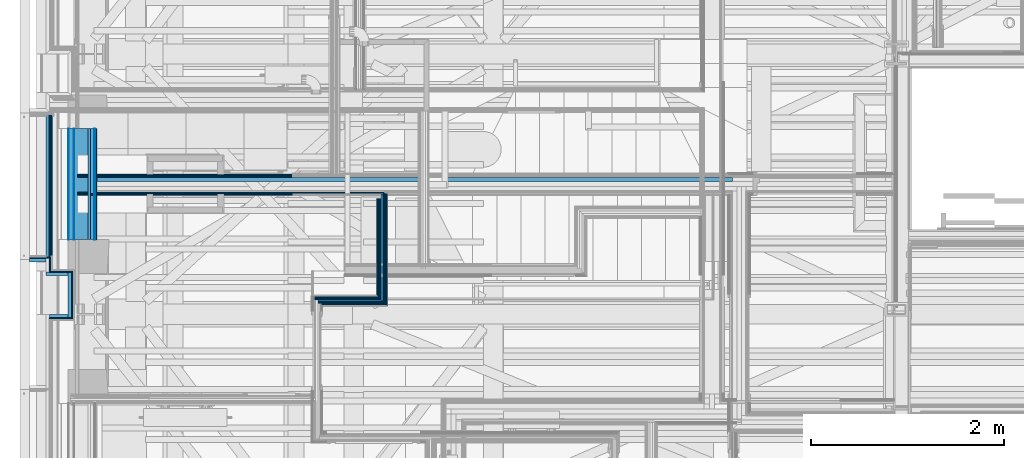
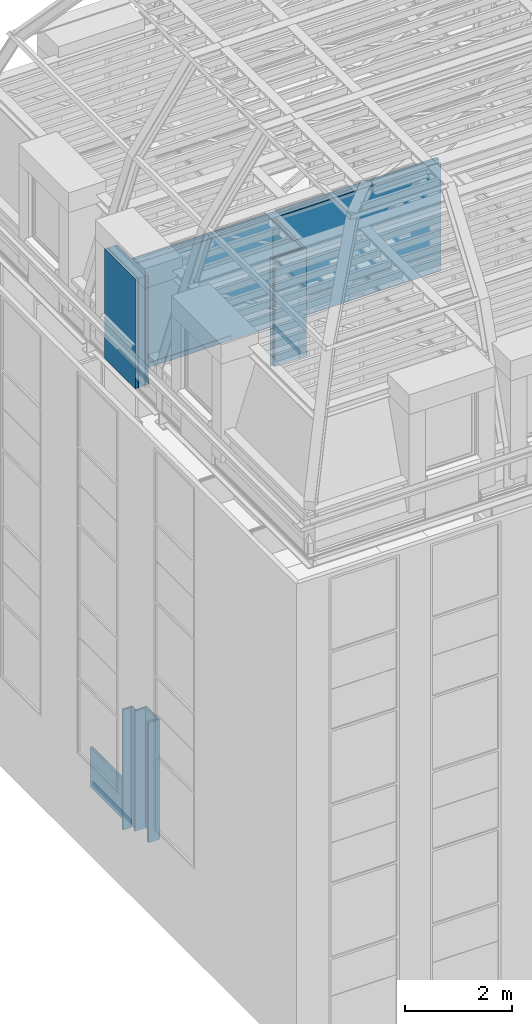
# One storey, part 30 of 183: 37 building element parts, 10 elements without a shape of their own.
"""IFC2X3 building model written with IfcOpenShell, lengths in metres."""

from ifc_helpers import new_model, entity, si_unit, converted_unit, derived_unit, money_unit, direction, frame, frame_2d, origin_with_axes, place, context, subcontext, project, spatial, polyline, rectangle, outline, extrude, material, type_object, element, aggregate, save


model = new_model("IFC2X3")

# Units and contexts
model_context = context("Model", 3, precision=1e-05, world=origin_with_axes(), true_north=direction((0.0, 1.0)))
body_context = subcontext(model_context, "Body", "Model", "MODEL_VIEW", scale=1.0)
ifc_project = project(units=[si_unit("LENGTHUNIT", "METRE"), si_unit("AREAUNIT", "SQUARE_METRE"), si_unit("VOLUMEUNIT", "CUBIC_METRE"), si_unit("ABSORBEDDOSEUNIT", "GRAY"), si_unit("AMOUNTOFSUBSTANCEUNIT", "MOLE"), si_unit("DOSEEQUIVALENTUNIT", "SIEVERT"), si_unit("ELECTRICCAPACITANCEUNIT", "FARAD"), si_unit("ELECTRICCHARGEUNIT", "COULOMB"), si_unit("ELECTRICCONDUCTANCEUNIT", "SIEMENS"), si_unit("ELECTRICCURRENTUNIT", "AMPERE"), si_unit("ELECTRICRESISTANCEUNIT", "OHM"), si_unit("ELECTRICVOLTAGEUNIT", "VOLT"), si_unit("ENERGYUNIT", "JOULE"), si_unit("FORCEUNIT", "NEWTON"), si_unit("FREQUENCYUNIT", "HERTZ"), si_unit("ILLUMINANCEUNIT", "LUX"), si_unit("INDUCTANCEUNIT", "HENRY"), si_unit("LUMINOUSFLUXUNIT", "LUMEN"), si_unit("LUMINOUSINTENSITYUNIT", "CANDELA"), si_unit("MAGNETICFLUXDENSITYUNIT", "TESLA"), si_unit("MAGNETICFLUXUNIT", "WEBER"), si_unit("MASSUNIT", "GRAM"), converted_unit("PLANEANGLEUNIT", "degree", entity("IfcReal", 0.0174532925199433), si_unit("PLANEANGLEUNIT", "RADIAN"), dimensions=[0, 0, 0, 0, 0, 0, 0]), si_unit("POWERUNIT", "WATT"), si_unit("PRESSUREUNIT", "PASCAL"), si_unit("RADIOACTIVITYUNIT", "BECQUEREL"), si_unit("SOLIDANGLEUNIT", "STERADIAN"), si_unit("THERMODYNAMICTEMPERATUREUNIT", "KELVIN"), si_unit("TIMEUNIT", "SECOND"), derived_unit("ACCELERATIONUNIT", [(si_unit("LENGTHUNIT", "METRE"), 1), (si_unit("TIMEUNIT", "SECOND"), -2)]), derived_unit("ANGULARVELOCITYUNIT", [(converted_unit("PLANEANGLEUNIT", "degree", entity("IfcReal", 0.0174532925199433), si_unit("PLANEANGLEUNIT", "RADIAN"), dimensions=[0, 0, 0, 0, 0, 0, 0]), 1), (si_unit("TIMEUNIT", "SECOND"), -1)]), derived_unit("CURVATUREUNIT", [(converted_unit("PLANEANGLEUNIT", "degree", entity("IfcReal", 0.0174532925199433), si_unit("PLANEANGLEUNIT", "RADIAN"), dimensions=[0, 0, 0, 0, 0, 0, 0]), 1), (si_unit("LENGTHUNIT", "METRE"), -1)]), derived_unit("DYNAMICVISCOSITYUNIT", [(si_unit("PRESSUREUNIT", "PASCAL"), 1), (si_unit("TIMEUNIT", "SECOND"), 1)]), derived_unit("HEATFLUXDENSITYUNIT", [(si_unit("POWERUNIT", "WATT"), 1), (si_unit("LENGTHUNIT", "METRE"), -2)]), derived_unit("HEATINGVALUEUNIT", [(si_unit("ENERGYUNIT", "JOULE"), 1), (si_unit("MASSUNIT", "GRAM"), -1)]), derived_unit("INTEGERCOUNTRATEUNIT", [(si_unit("TIMEUNIT", "SECOND"), -1)]), derived_unit("IONCONCENTRATIONUNIT", [(si_unit("MASSUNIT", "GRAM"), 1), (si_unit("VOLUMEUNIT", "CUBIC_METRE"), -1)]), derived_unit("ISOTHERMALMOISTURECAPACITYUNIT", [(si_unit("VOLUMEUNIT", "CUBIC_METRE"), 1), (si_unit("MASSUNIT", "GRAM"), -1)]), derived_unit("KINEMATICVISCOSITYUNIT", [(si_unit("AREAUNIT", "SQUARE_METRE"), 1), (si_unit("TIMEUNIT", "SECOND"), -1)]), derived_unit("LINEARFORCEUNIT", [(si_unit("FORCEUNIT", "NEWTON"), 1), (si_unit("LENGTHUNIT", "METRE"), -1)]), derived_unit("LINEARMOMENTUNIT", [(si_unit("FORCEUNIT", "NEWTON"), 1), (si_unit("LENGTHUNIT", "METRE"), -1)]), derived_unit("LINEARSTIFFNESSUNIT", [(si_unit("FORCEUNIT", "NEWTON"), 1), (si_unit("LENGTHUNIT", "METRE"), -1)]), derived_unit("LINEARVELOCITYUNIT", [(si_unit("LENGTHUNIT", "METRE"), 1), (si_unit("TIMEUNIT", "SECOND"), -1)]), derived_unit("LUMINOUSINTENSITYDISTRIBUTIONUNIT", [(si_unit("LUMINOUSINTENSITYUNIT", "CANDELA"), 1), (si_unit("LUMINOUSFLUXUNIT", "LUMEN"), -1)]), derived_unit("MASSDENSITYUNIT", [(si_unit("MASSUNIT", "GRAM"), 1), (si_unit("VOLUMEUNIT", "CUBIC_METRE"), -1)]), derived_unit("MASSFLOWRATEUNIT", [(si_unit("MASSUNIT", "GRAM"), 1), (si_unit("TIMEUNIT", "SECOND"), -1)]), derived_unit("MASSPERLENGTHUNIT", [(si_unit("MASSUNIT", "GRAM"), 1), (si_unit("LENGTHUNIT", "METRE"), -1)]), derived_unit("MODULUSOFELASTICITYUNIT", [(si_unit("FORCEUNIT", "NEWTON"), 1), (si_unit("AREAUNIT", "SQUARE_METRE"), -1)]), derived_unit("MODULUSOFLINEARSUBGRADEREACTIONUNIT", [(si_unit("FORCEUNIT", "NEWTON"), 1), (si_unit("LENGTHUNIT", "METRE"), -2)]), derived_unit("MODULUSOFROTATIONALSUBGRADEREACTIONUNIT", [(si_unit("FORCEUNIT", "NEWTON"), 1), (si_unit("LENGTHUNIT", "METRE"), 1)]), derived_unit("MODULUSOFSUBGRADEREACTIONUNIT", [(si_unit("FORCEUNIT", "NEWTON"), 1), (si_unit("VOLUMEUNIT", "CUBIC_METRE"), -1)]), derived_unit("MOISTUREDIFFUSIVITYUNIT", [(si_unit("VOLUMEUNIT", "CUBIC_METRE"), 1), (si_unit("TIMEUNIT", "SECOND"), -1)]), derived_unit("MOLECULARWEIGHTUNIT", [(si_unit("MASSUNIT", "GRAM"), 1), (si_unit("AMOUNTOFSUBSTANCEUNIT", "MOLE"), -1)]), derived_unit("PLANARFORCEUNIT", [(si_unit("FORCEUNIT", "NEWTON"), 1), (si_unit("LENGTHUNIT", "METRE"), -2)]), derived_unit("ROTATIONALFREQUENCYUNIT", [(si_unit("TIMEUNIT", "SECOND"), -1)]), derived_unit("ROTATIONALMASSUNIT", [(si_unit("MASSUNIT", "GRAM"), 1), (si_unit("LENGTHUNIT", "METRE"), 2)]), derived_unit("ROTATIONALSTIFFNESSUNIT", [(si_unit("FORCEUNIT", "NEWTON"), 1), (si_unit("LENGTHUNIT", "METRE"), 1), (converted_unit("PLANEANGLEUNIT", "degree", entity("IfcReal", 0.0174532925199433), si_unit("PLANEANGLEUNIT", "RADIAN"), dimensions=[0, 0, 0, 0, 0, 0, 0]), -1)]), derived_unit("SECTIONAREAINTEGRALUNIT", [(si_unit("LENGTHUNIT", "METRE"), 5)]), derived_unit("SECTIONMODULUSUNIT", [(si_unit("LENGTHUNIT", "METRE"), 3)]), derived_unit("SHEARMODULUSUNIT", [(si_unit("FORCEUNIT", "NEWTON"), 1), (si_unit("AREAUNIT", "SQUARE_METRE"), -1)]), derived_unit("SOUNDPOWERUNIT", [(si_unit("ENERGYUNIT", "JOULE"), 1), (si_unit("TIMEUNIT", "SECOND"), -1)]), derived_unit("SPECIFICHEATCAPACITYUNIT", [(si_unit("FORCEUNIT", "NEWTON"), 1), (si_unit("MASSUNIT", "GRAM"), -1), (si_unit("THERMODYNAMICTEMPERATUREUNIT", "KELVIN"), -1)]), derived_unit("TEMPERATUREGRADIENTUNIT", [(si_unit("THERMODYNAMICTEMPERATUREUNIT", "KELVIN"), 1), (si_unit("LENGTHUNIT", "METRE"), -1)]), derived_unit("THERMALADMITTANCEUNIT", [(si_unit("POWERUNIT", "WATT"), 1), (si_unit("AREAUNIT", "SQUARE_METRE"), -1), (si_unit("THERMODYNAMICTEMPERATUREUNIT", "KELVIN"), -1)]), derived_unit("THERMALCONDUCTANCEUNIT", [(si_unit("POWERUNIT", "WATT"), 1), (si_unit("LENGTHUNIT", "METRE"), -1), (si_unit("THERMODYNAMICTEMPERATUREUNIT", "KELVIN"), -1)]), derived_unit("THERMALEXPANSIONCOEFFICIENTUNIT", [(si_unit("THERMODYNAMICTEMPERATUREUNIT", "KELVIN"), -1)]), derived_unit("THERMALRESISTANCEUNIT", [(si_unit("AREAUNIT", "SQUARE_METRE"), 1), (si_unit("POWERUNIT", "WATT"), -1)]), derived_unit("THERMALTRANSMITTANCEUNIT", [(si_unit("POWERUNIT", "WATT"), 1), (si_unit("AREAUNIT", "SQUARE_METRE"), -1), (si_unit("THERMODYNAMICTEMPERATUREUNIT", "KELVIN"), -1)]), derived_unit("TORQUEUNIT", [(si_unit("FORCEUNIT", "NEWTON"), 1), (si_unit("LENGTHUNIT", "METRE"), 1)]), derived_unit("VAPORPERMEABILITYUNIT", [(si_unit("MASSUNIT", "GRAM"), 1), (si_unit("TIMEUNIT", "SECOND"), -1)]), derived_unit("VOLUMETRICFLOWRATEUNIT", [(si_unit("VOLUMEUNIT", "CUBIC_METRE"), 1), (si_unit("TIMEUNIT", "SECOND"), -1)]), derived_unit("WARPINGCONSTANTUNIT", [(si_unit("LENGTHUNIT", "METRE"), 6)]), derived_unit("WARPINGMOMENTUNIT", [(si_unit("FORCEUNIT", "NEWTON"), 1), (si_unit("LENGTHUNIT", "METRE"), 2)]), money_unit("GBP")], contexts=[model_context])

# Site, building, storey
site_placement = place(None, origin_with_axes())
site = spatial("IfcSite", under=ifc_project, at=site_placement, Name="Site", CompositionType="ELEMENT")
building_placement = place(site_placement, origin_with_axes())
building = spatial("IfcBuilding", under=site, at=building_placement, Name="Building01", CompositionType="ELEMENT")
storey_placement = place(building_placement, frame((0.0, 0.0, 5.15), z_axis=(0.0, 0.0, 1.0), x_axis=(1.0, 0.0, 0.0)))
storey = spatial("IfcBuildingStorey", under=building, at=storey_placement, Name="1F", CompositionType="ELEMENT", Elevation=5.15)

# Wall, building element parts
wall_type_1 = type_object("IfcWallType", Name="SHE_A-Walls_Type06d_ExternalWallInsulation_48mm", PredefinedType="NOTDEFINED")
wall_1_placement = place(storey_placement, frame((0.306, 8.17, 0.0), z_axis=(0.0, 0.0, 1.0), x_axis=(0.0, -1.0, 0.0)))
wall_1 = element("IfcWall", 1, at=wall_1_placement, inside=storey, type_object=wall_type_1, Name="6D", ObjectType="SHE_A-Walls_Type06d_ExternalWallInsulation_48mm")
ifc_material_1 = material(Name="A_BSUK_Insulation")
placement_1 = place(wall_1_placement, origin_with_axes())
building_element_part_1 = element("IfcBuildingElementPart", 2, at=placement_1, material=ifc_material_1, Name="1", context=body_context, shape_type="SweptSolid", body=[
    extrude(rectangle(XDim=1.47782, YDim=0.036, at=frame_2d((0.73891, -0.018), x_axis=(-1.0, 0.0))), origin_with_axes(), (0.0, 0.0, 1.0), 0.915),
])
ifc_material_2 = material(Name="A_BSUK_WallInternal_Finishes_Plasterboard")
building_element_part_2 = element("IfcBuildingElementPart", 3, at=placement_1, material=ifc_material_2, Name="2", context=body_context, shape_type="SweptSolid", body=[
    extrude(rectangle(XDim=1.47782, YDim=0.013, at=frame_2d((0.73891, 0.0055), x_axis=(-1.0, 0.0))), origin_with_axes(), (0.0, 0.0, 1.0), 0.915),
])
ifc_material_3 = material(Name="A_BSUK_Walls_Timber")
building_element_part_3 = element("IfcBuildingElementPart", 4, at=placement_1, material=ifc_material_3, Name="3", context=body_context, shape_type="SweptSolid", body=[
    extrude(rectangle(XDim=1.46282, YDim=0.015, at=frame_2d((0.73141, 0.0195), x_axis=(-1.0, 0.0))), frame((0.0, 0.0, 0.015), z_axis=(0.0, 0.0, 1.0), x_axis=(1.0, 0.0, 0.0)), (0.0, 0.0, 1.0), 0.1),
])
aggregate(wall_1, [building_element_part_1, building_element_part_2, building_element_part_3])

# Wall, building element part
wall_2_placement = place(storey_placement, frame((0.27, 6.68018, 0.0), z_axis=(0.0, 0.0, 1.0), x_axis=(0.0, -1.0, 0.0)))
wall_2 = element("IfcWall", 5, at=wall_2_placement, inside=storey, type_object=wall_type_1, Name="6D", ObjectType="SHE_A-Walls_Type06d_ExternalWallInsulation_48mm")
building_element_part_4_placement = place(wall_2_placement, origin_with_axes())
building_element_part_4 = element("IfcBuildingElementPart", 6, at=building_element_part_4_placement, material=ifc_material_2, Name="2", context=body_context, shape_type="SweptSolid", body=[
    extrude(outline(polyline([(0.13218, 0.048), (-0.012, 0.048), (0.001, 0.035), (0.13218, 0.035), (0.13218, 0.048)])), origin_with_axes(), (0.0, 0.0, 1.0), 2.74),
])
aggregate(wall_2, [building_element_part_4])

# Wall, building element parts
wall_3_placement = place(storey_placement, frame((0.27, 6.64418, 0.0), z_axis=(0.0, 0.0, 1.0), x_axis=(-1.0, 0.0, 0.0)))
wall_3 = element("IfcWall", 7, at=wall_3_placement, inside=storey, type_object=wall_type_1, Name="6D", ObjectType="SHE_A-Walls_Type06d_ExternalWallInsulation_48mm")
placement_2 = place(wall_3_placement, origin_with_axes())
building_element_part_5 = element("IfcBuildingElementPart", 8, at=placement_2, material=ifc_material_2, Name="2", context=body_context, shape_type="SweptSolid", body=[
    extrude(outline(polyline([(-0.035, -0.035), (-0.048, -0.048), (0.17, -0.048), (0.17, -0.035), (-0.035, -0.035)])), origin_with_axes(), (0.0, 0.0, 1.0), 2.74),
])
building_element_part_6 = element("IfcBuildingElementPart", 9, at=placement_2, material=ifc_material_1, Name="3", context=body_context, shape_type="SweptSolid", body=[
    extrude(rectangle(XDim=0.036, YDim=0.17, at=frame_2d((0.085, -0.018), x_axis=(0.0, -1.0))), origin_with_axes(), (0.0, 0.0, 1.0), 2.74),
])
aggregate(wall_3, [building_element_part_5, building_element_part_6])

wall_4_placement = place(storey_placement, frame((0.27, 6.5, 0.0), z_axis=(0.0, 0.0, 1.0), x_axis=(1.0, 0.0, 0.0)))
wall_4 = element("IfcWall", 10, at=wall_4_placement, inside=storey, type_object=wall_type_1, Name="6D", ObjectType="SHE_A-Walls_Type06d_ExternalWallInsulation_48mm")
placement_3 = place(wall_4_placement, origin_with_axes())
building_element_part_7 = element("IfcBuildingElementPart", 11, at=placement_3, material=ifc_material_1, Name="1", context=body_context, shape_type="SweptSolid", body=[
    extrude(rectangle(XDim=0.23, YDim=0.036, at=frame_2d((0.115, 0.018), x_axis=(-1.0, 0.0))), origin_with_axes(), (0.0, 0.0, 1.0), 2.74),
])
building_element_part_8 = element("IfcBuildingElementPart", 12, at=placement_3, material=ifc_material_2, Name="2", context=body_context, shape_type="SweptSolid", body=[
    extrude(outline(polyline([(0.278, 0.048), (0.035, 0.048), (0.035, 0.035), (0.265, 0.035), (0.278, 0.048)])), origin_with_axes(), (0.0, 0.0, 1.0), 2.74),
])
aggregate(wall_4, [building_element_part_7, building_element_part_8])

wall_5_placement = place(storey_placement, frame((0.5, 6.536, 0.0), z_axis=(0.0, 0.0, 1.0), x_axis=(0.0, -1.0, 0.0)))
wall_5 = element("IfcWall", 13, at=wall_5_placement, inside=storey, type_object=wall_type_1, Name="6D", ObjectType="SHE_A-Walls_Type06d_ExternalWallInsulation_48mm")
placement_4 = place(wall_5_placement, origin_with_axes())
building_element_part_9 = element("IfcBuildingElementPart", 14, at=placement_4, material=ifc_material_1, Name="1", context=body_context, shape_type="SweptSolid", body=[
    extrude(rectangle(XDim=0.472, YDim=0.036, at=frame_2d((0.236, 0.018), x_axis=(-1.0, 0.0))), origin_with_axes(), (0.0, 0.0, 1.0), 2.74),
])
building_element_part_10 = element("IfcBuildingElementPart", 15, at=placement_4, material=ifc_material_2, Name="2", context=body_context, shape_type="SweptSolid", body=[
    extrude(outline(polyline([(0.484, 0.048), (-0.012, 0.048), (0.001, 0.035), (0.471, 0.035), (0.484, 0.048)])), origin_with_axes(), (0.0, 0.0, 1.0), 2.74),
])
aggregate(wall_5, [building_element_part_9, building_element_part_10])

wall_6_placement = place(storey_placement, frame((0.5, 6.1, 0.0), z_axis=(0.0, 0.0, 1.0), x_axis=(-1.0, 0.0, 0.0)))
wall_6 = element("IfcWall", 16, at=wall_6_placement, inside=storey, type_object=wall_type_1, Name="6D", ObjectType="SHE_A-Walls_Type06d_ExternalWallInsulation_48mm")
placement_5 = place(wall_6_placement, origin_with_axes())
building_element_part_11 = element("IfcBuildingElementPart", 17, at=placement_5, material=ifc_material_1, Name="1", context=body_context, shape_type="SweptSolid", body=[
    extrude(rectangle(XDim=0.194, YDim=0.036, at=frame_2d((0.097, 0.018), x_axis=(-1.0, 0.0))), origin_with_axes(), (0.0, 0.0, 1.0), 2.74),
])
building_element_part_12 = element("IfcBuildingElementPart", 18, at=placement_5, material=ifc_material_2, Name="2", context=body_context, shape_type="SweptSolid", body=[
    extrude(outline(polyline([(0.195, 0.048), (-0.048, 0.048), (-0.035, 0.035), (0.195, 0.035), (0.195, 0.048)])), origin_with_axes(), (0.0, 0.0, 1.0), 2.74),
])
aggregate(wall_6, [building_element_part_11, building_element_part_12])

wall_type_2 = type_object("IfcWallType", Name="SHE_A-Walls_Type05b_Partition_80mm", PredefinedType="NOTDEFINED")
wall_7_placement = place(storey_placement, frame((3.767111, 7.349939, 9.78), z_axis=(0.0, 0.0, 1.0), x_axis=(0.0, -1.0, 0.0)))
wall_7 = element("IfcWall", 19, at=wall_7_placement, inside=storey, type_object=wall_type_2, Name="5B", ObjectType="SHE_A-Walls_Type05b_Partition_80mm")
placement_6 = place(wall_7_placement, origin_with_axes())
building_element_part_13 = element("IfcBuildingElementPart", 20, at=placement_6, material=ifc_material_3, Name="1", context=body_context, shape_type="SweptSolid", body=[
    extrude(outline(polyline([(1.07, -0.052), (0.05, -0.052), (0.05, -0.067), (1.055, -0.067), (1.07, -0.052)])), frame((0.0, 0.0, 0.015), z_axis=(0.0, 0.0, 1.0), x_axis=(1.0, 0.0, 0.0)), (0.0, 0.0, 1.0), 0.1),
])
building_element_part_14 = element("IfcBuildingElementPart", 21, at=placement_6, material=ifc_material_2, Name="2", context=body_context, shape_type="SweptSolid", body=[
    extrude(outline(polyline([(1.085, -0.037), (0.05, -0.037), (0.05, -0.052), (1.07, -0.052), (1.085, -0.037)])), origin_with_axes(), (0.0, 0.0, 1.0), 2.468),
])
ifc_material_4 = material(Name="Air Cavity")
building_element_part_15 = element("IfcBuildingElementPart", 22, at=placement_6, material=ifc_material_4, Name="3", context=body_context, shape_type="SweptSolid", body=[
    extrude(outline(polyline([(1.097, -0.025), (0.05, -0.025), (0.05, -0.037), (1.085, -0.037), (1.097, -0.025)])), origin_with_axes(), (0.0, 0.0, 1.0), 2.468),
])
building_element_part_16 = element("IfcBuildingElementPart", 23, at=placement_6, material=ifc_material_1, Name="4", context=body_context, shape_type="SweptSolid", body=[
    extrude(outline(polyline([(1.122, 0.0), (0.0, 0.0), (0.0, -0.025), (1.097, -0.025), (1.122, 0.0)])), origin_with_axes(), (0.0, 0.0, 1.0), 2.468),
])
building_element_part_17 = element("IfcBuildingElementPart", 24, at=placement_6, material=ifc_material_4, Name="5", context=body_context, shape_type="SweptSolid", body=[
    extrude(outline(polyline([(1.135, 0.013), (0.0, 0.013), (0.0, 0.0), (1.122, 0.0), (1.135, 0.013)])), origin_with_axes(), (0.0, 0.0, 1.0), 2.468),
])
building_element_part_18 = element("IfcBuildingElementPart", 25, at=placement_6, material=ifc_material_2, Name="6", context=body_context, shape_type="SweptSolid", body=[
    extrude(outline(polyline([(1.15, 0.028), (0.0, 0.028), (0.0, 0.013), (1.135, 0.013), (1.15, 0.028)])), origin_with_axes(), (0.0, 0.0, 1.0), 2.468),
])
building_element_part_19 = element("IfcBuildingElementPart", 26, at=placement_6, material=ifc_material_3, Name="7", context=body_context, shape_type="SweptSolid", body=[
    extrude(outline(polyline([(1.165, 0.043), (0.0, 0.043), (0.0, 0.028), (1.15, 0.028), (1.165, 0.043)])), frame((0.0, 0.0, 0.015), z_axis=(0.0, 0.0, 1.0), x_axis=(1.0, 0.0, 0.0)), (0.0, 0.0, 1.0), 0.1),
])
aggregate(wall_7, [building_element_part_13, building_element_part_14, building_element_part_15, building_element_part_16, building_element_part_17, building_element_part_18, building_element_part_19])

wall_8_placement = place(storey_placement, frame((3.767111, 6.227939, 9.78), z_axis=(0.0, 0.0, 1.0), x_axis=(-1.0, 0.0, 0.0)))
wall_8 = element("IfcWall", 27, at=wall_8_placement, inside=storey, type_object=wall_type_2, Name="5B", ObjectType="SHE_A-Walls_Type05b_Partition_80mm")
placement_7 = place(wall_8_placement, origin_with_axes())
building_element_part_20 = element("IfcBuildingElementPart", 28, at=placement_7, material=ifc_material_2, Name="2", context=body_context, shape_type="SweptSolid", body=[
    extrude(outline(polyline([(0.712135, -0.037), (0.037, -0.037), (0.052, -0.052), (0.712135, -0.052), (0.712135, -0.037)])), origin_with_axes(), (0.0, 0.0, 1.0), 2.468),
])
building_element_part_21 = element("IfcBuildingElementPart", 29, at=placement_7, material=ifc_material_4, Name="3", context=body_context, shape_type="SweptSolid", body=[
    extrude(outline(polyline([(0.712135, -0.025), (0.025, -0.025), (0.037, -0.037), (0.712135, -0.037), (0.712135, -0.025)])), origin_with_axes(), (0.0, 0.0, 1.0), 2.468),
])
building_element_part_22 = element("IfcBuildingElementPart", 30, at=placement_7, material=ifc_material_1, Name="4", context=body_context, shape_type="SweptSolid", body=[
    extrude(outline(polyline([(0.675135, 0.0), (0.0, 0.0), (0.025, -0.025), (0.675135, -0.025), (0.675135, 0.0)])), origin_with_axes(), (0.0, 0.0, 1.0), 2.468),
])
building_element_part_23 = element("IfcBuildingElementPart", 31, at=placement_7, material=ifc_material_4, Name="5", context=body_context, shape_type="SweptSolid", body=[
    extrude(outline(polyline([(0.675135, 0.013), (-0.013, 0.013), (0.0, 0.0), (0.675135, 0.0), (0.675135, 0.013)])), origin_with_axes(), (0.0, 0.0, 1.0), 2.468),
])
building_element_part_24 = element("IfcBuildingElementPart", 32, at=placement_7, material=ifc_material_2, Name="6", context=body_context, shape_type="SweptSolid", body=[
    extrude(outline(polyline([(0.647135, 0.028), (-0.028, 0.028), (-0.013, 0.013), (0.647135, 0.013), (0.647135, 0.028)])), origin_with_axes(), (0.0, 0.0, 1.0), 2.468),
])
aggregate(wall_8, [building_element_part_20, building_element_part_21, building_element_part_22, building_element_part_23, building_element_part_24])

wall_type_3 = type_object("IfcWallType", Name="SHE_A-Walls_Type01d_Partywall_200mm_twin", PredefinedType="NOTDEFINED")
wall_9_placement = place(storey_placement, frame((9.06, 7.425061, 9.78), z_axis=(0.0, 0.0, 1.0), x_axis=(-1.0, 0.0, 0.0)))
wall_9 = element("IfcWall", 33, at=wall_9_placement, inside=storey, type_object=wall_type_3, Name="1D", ObjectType="SHE_A-Walls_Type01d_Partywall_200mm_twin")
placement_8 = place(wall_9_placement, origin_with_axes())
building_element_part_25 = element("IfcBuildingElementPart", 34, at=placement_8, material=ifc_material_2, Name="5", context=body_context, shape_type="SweptSolid", body=[
    extrude(rectangle(XDim=6.775061, YDim=0.015, at=frame_2d((5.07253, -0.1175), x_axis=(-1.0, 0.0))), origin_with_axes(), (0.0, 0.0, 1.0), 2.468),
])
building_element_part_26 = element("IfcBuildingElementPart", 35, at=placement_8, material=ifc_material_2, Name="7", context=body_context, shape_type="SweptSolid", body=[
    extrude(rectangle(XDim=6.790061, YDim=0.015, at=frame_2d((5.06503, -0.1025), x_axis=(-1.0, 0.0))), origin_with_axes(), (0.0, 0.0, 1.0), 2.468),
])
building_element_part_27 = element("IfcBuildingElementPart", 36, at=placement_8, material=ifc_material_4, Name="8", context=body_context, shape_type="SweptSolid", body=[
    extrude(rectangle(XDim=6.790061, YDim=0.045, at=frame_2d((5.06503, -0.0725), x_axis=(-1.0, 0.0))), origin_with_axes(), (0.0, 0.0, 1.0), 2.468),
])
building_element_part_28 = element("IfcBuildingElementPart", 37, at=placement_8, material=ifc_material_2, Name="12", context=body_context, shape_type="SweptSolid", body=[
    extrude(rectangle(XDim=6.760061, YDim=0.015, at=frame_2d((5.08003, 0.0675), x_axis=(-1.0, 0.0))), origin_with_axes(), (0.0, 0.0, 1.0), 2.468),
])
building_element_part_29 = element("IfcBuildingElementPart", 38, at=placement_8, material=ifc_material_3, Name="14", context=body_context, shape_type="SweptSolid", body=[
    extrude(rectangle(XDim=2.225152, YDim=0.015, at=frame_2d((7.347485, 0.0825), x_axis=(-1.0, 0.0))), frame((0.0, 0.0, 0.015), z_axis=(0.0, 0.0, 1.0), x_axis=(1.0, 0.0, 0.0)), (0.0, 0.0, 1.0), 0.1),
])
aggregate(wall_9, [building_element_part_25, building_element_part_26, building_element_part_27, building_element_part_28, building_element_part_29])

wall_type_4 = type_object("IfcWallType", Name="SHE_A-Walls_Type06e_ExternalWallPenthouse_280mm", PredefinedType="NOTDEFINED")
wall_10_placement = place(storey_placement, frame((0.564939, 8.024915, 9.78), z_axis=(0.0, 0.0, 1.0), x_axis=(0.0, -1.0, 0.0)))
wall_10 = element("IfcWall", 39, at=wall_10_placement, inside=storey, type_object=wall_type_4, Name="6E", ObjectType="SHE_A-Walls_Type06e_ExternalWallPenthouse_280mm")
ifc_material_5 = material(Name="A_BSUK_WallInternal_Finishes_Metal")
placement_9 = place(wall_10_placement, origin_with_axes())
building_element_part_30 = element("IfcBuildingElementPart", 40, at=placement_9, material=ifc_material_5, Name="1", context=body_context, shape_type="SweptSolid", body=[
    extrude(rectangle(XDim=1.149951, YDim=0.005, at=frame_2d((0.574976, -0.0625), x_axis=(-1.0, 0.0))), origin_with_axes(), (0.0, 0.0, 1.0), 2.5),
])
building_element_part_31 = element("IfcBuildingElementPart", 41, at=placement_9, material=ifc_material_4, Name="2", context=body_context, shape_type="SweptSolid", body=[
    extrude(rectangle(XDim=1.149951, YDim=0.05, at=frame_2d((0.574976, -0.035), x_axis=(-1.0, 0.0))), origin_with_axes(), (0.0, 0.0, 1.0), 2.5),
])
building_element_part_32 = element("IfcBuildingElementPart", 42, at=placement_9, material=ifc_material_3, Name="3", context=body_context, shape_type="SweptSolid", body=[
    extrude(rectangle(XDim=1.149951, YDim=0.01, at=frame_2d((0.574976, -0.005), x_axis=(-1.0, 0.0))), origin_with_axes(), (0.0, 0.0, 1.0), 2.5),
])
building_element_part_33 = element("IfcBuildingElementPart", 43, at=placement_9, material=ifc_material_1, Name="4", context=body_context, shape_type="SweptSolid", body=[
    extrude(rectangle(XDim=1.149951, YDim=0.14, at=frame_2d((0.574976, 0.07), x_axis=(-1.0, 0.0))), origin_with_axes(), (0.0, 0.0, 1.0), 2.5),
])
building_element_part_34 = element("IfcBuildingElementPart", 44, at=placement_9, material=ifc_material_4, Name="5", context=body_context, shape_type="SweptSolid", body=[
    extrude(rectangle(XDim=1.149951, YDim=0.025, at=frame_2d((0.574976, 0.1525), x_axis=(-1.0, 0.0))), origin_with_axes(), (0.0, 0.0, 1.0), 2.5),
])
building_element_part_35 = element("IfcBuildingElementPart", 45, at=placement_9, material=ifc_material_1, Name="6", context=body_context, shape_type="SweptSolid", body=[
    extrude(rectangle(XDim=1.149951, YDim=0.04, at=frame_2d((0.574976, 0.185), x_axis=(-1.0, 0.0))), origin_with_axes(), (0.0, 0.0, 1.0), 2.5),
])
building_element_part_36 = element("IfcBuildingElementPart", 46, at=placement_9, material=ifc_material_2, Name="7", context=body_context, shape_type="SweptSolid", body=[
    extrude(rectangle(XDim=1.149951, YDim=0.01, at=frame_2d((0.574976, 0.21), x_axis=(-1.0, 0.0))), origin_with_axes(), (0.0, 0.0, 1.0), 2.5),
])
building_element_part_37 = element("IfcBuildingElementPart", 47, at=placement_9, material=ifc_material_3, Name="8", context=body_context, shape_type="SweptSolid", body=[
    extrude(rectangle(XDim=1.149951, YDim=0.015, at=frame_2d((0.574976, 0.2225), x_axis=(-1.0, 0.0))), frame((0.0, 0.0, 0.015), z_axis=(0.0, 0.0, 1.0), x_axis=(1.0, 0.0, 0.0)), (0.0, 0.0, 1.0), 0.1),
])
aggregate(wall_10, [building_element_part_30, building_element_part_31, building_element_part_32, building_element_part_33, building_element_part_34, building_element_part_35, building_element_part_36, building_element_part_37])

save(model, "model.ifc")
